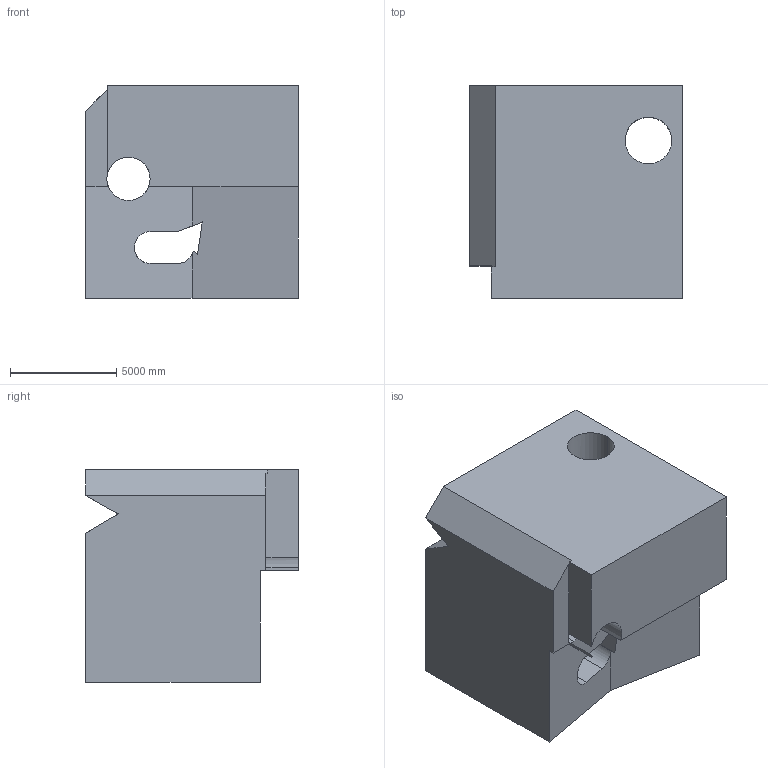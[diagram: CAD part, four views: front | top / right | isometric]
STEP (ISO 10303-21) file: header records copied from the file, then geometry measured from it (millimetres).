
FILE_DESCRIPTION (( 'STEP AP203' ), '1' );
FILE_NAME ('371.STEP', '2022-09-07T13:17:03', ( 'user' ), ( '' ), 'SwSTEP 2.0', 'SolidWorks 2021', '' );
FILE_SCHEMA (( 'CONFIG_CONTROL_DESIGN' ));
Length unit declared in the file: centimetre
Products named in the file (1): 371
Bounding box: 10000 x 10000 x 10000 mm (x, y, z)
Volume: 749517810403 mm3; surface area: 754104815.4 mm2
Topology: 1 solids, 1 shells, 34 faces, 104 edges, 69 vertices
Faces by surface type: plane 26, cylinder 8
Entity records: 1249 total; most frequent: CARTESIAN_POINT 229, ORIENTED_EDGE 208, DIRECTION 183, EDGE_CURVE 104, VECTOR 81, LINE 81, VERTEX_POINT 69, AXIS2_PLACEMENT_3D 51
